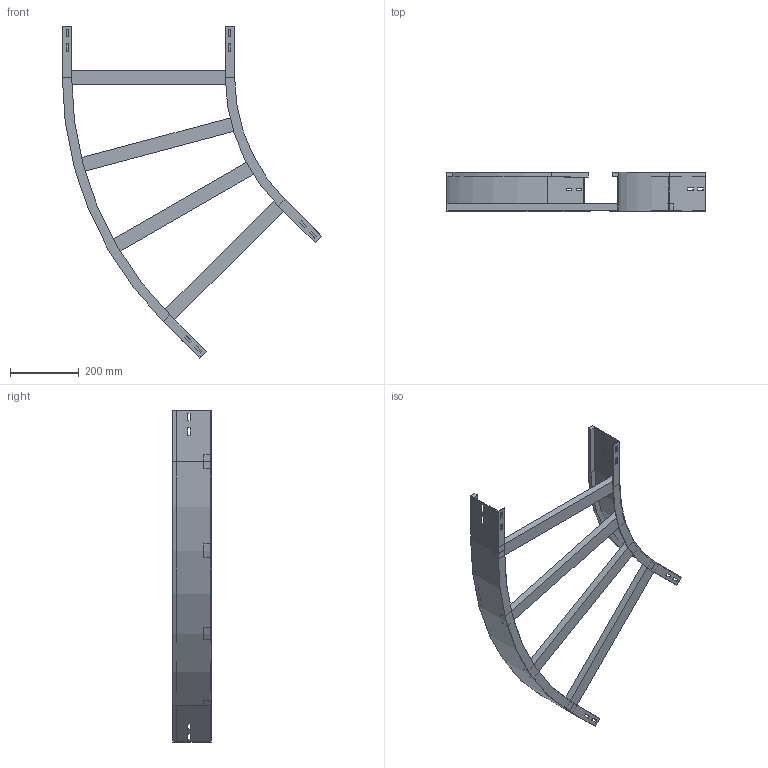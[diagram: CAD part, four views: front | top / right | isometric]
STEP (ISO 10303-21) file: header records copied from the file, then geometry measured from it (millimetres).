
FILE_DESCRIPTION (( 'STEP AP214' ), '1' );
FILE_NAME ('11B5J500.step', '2025-02-21T15:13:36', ( '' ), ( '' ), 'SwSTEP 2.0', 'SolidWorks 2023', '' );
FILE_SCHEMA (( 'AUTOMOTIVE_DESIGN' ));
Length unit declared in the file: millimetre
Products named in the file (4): A2_LONGH.ESTERNO 45°_H112.5_R500+500; 11B5J500; TRAVERSINO_500; A2_LONGH.INTERNO 45°_H112.5_R500
Assembly tree (6 placements, depth 2):
  11B5J500
    A2_LONGH.INTERNO 45°_H112.5_R500
    A2_LONGH.ESTERNO 45°_H112.5_R500+500
    TRAVERSINO_500  x4
Bounding box: 752.51 x 112.5 x 963.17 mm (x, y, z)
Volume: 2432483.4 mm3; surface area: 798328.2 mm2
Topology: 6 solids, 6 shells, 140 faces, 352 edges, 224 vertices
Faces by surface type: plane 132, cylinder 8
Entity records: 3829 total; most frequent: CARTESIAN_POINT 647, ORIENTED_EDGE 632, DIRECTION 594, EDGE_CURVE 316, LINE 300, VECTOR 300, VERTEX_POINT 200, EDGE_LOOP 154
